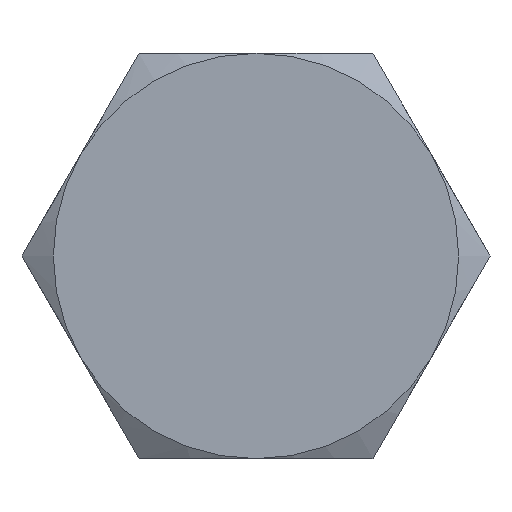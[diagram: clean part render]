
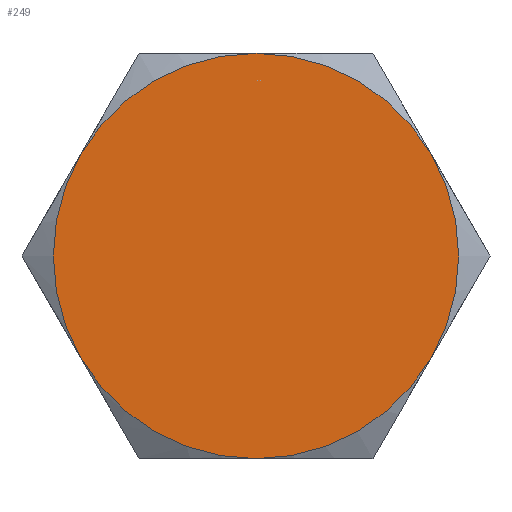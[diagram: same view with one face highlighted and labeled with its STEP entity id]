
A CAD part, left-side view. The second image highlights one B-rep face of the part: STEP entity #249.
In plain terms, the highlighted planar face has unit normal (-1, 0, 0).
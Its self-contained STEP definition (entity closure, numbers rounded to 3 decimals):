
#5 = CIRCLE ( 'NONE', #329, 6.5 ) ;
#7 = CARTESIAN_POINT ( 'NONE',  ( 0., 5.629, 3.25 ) ) ;
#14 = CARTESIAN_POINT ( 'NONE',  ( 0., 0., 6.5 ) ) ;
#76 = DIRECTION ( 'NONE',  ( -1., 0., 0. ) ) ;
#84 = CIRCLE ( 'NONE', #289, 6.5 ) ;
#87 = DIRECTION ( 'NONE',  ( 0., 0., -1. ) ) ;
#99 = EDGE_LOOP ( 'NONE', ( #219, #202, #200, #430, #188, #141 ) ) ;
#118 = EDGE_CURVE ( 'NONE', #269, #456, #120, .T. ) ;
#120 = CIRCLE ( 'NONE', #241, 6.5 ) ;
#121 = EDGE_CURVE ( 'NONE', #456, #204, #84, .T. ) ;
#124 = CARTESIAN_POINT ( 'NONE',  ( 0., 0., 0. ) ) ;
#130 = DIRECTION ( 'NONE',  ( 1., 0., 0. ) ) ;
#138 = AXIS2_PLACEMENT_3D ( 'NONE', #548, #173, #520 ) ;
#139 = EDGE_CURVE ( 'NONE', #204, #164, #446, .T. ) ;
#141 = ORIENTED_EDGE ( 'NONE', *, *, #139, .F. ) ;
#150 = AXIS2_PLACEMENT_3D ( 'NONE', #168, #518, #87 ) ;
#164 = VERTEX_POINT ( 'NONE', #7 ) ;
#165 = DIRECTION ( 'NONE',  ( 1., 0., 0. ) ) ;
#168 = CARTESIAN_POINT ( 'NONE',  ( 0., 0., 0. ) ) ;
#173 = DIRECTION ( 'NONE',  ( 1., 0., 0. ) ) ;
#176 = DIRECTION ( 'NONE',  ( 1., 0., 0. ) ) ;
#178 = EDGE_CURVE ( 'NONE', #454, #164, #5, .T. ) ;
#188 = ORIENTED_EDGE ( 'NONE', *, *, #178, .T. ) ;
#189 = AXIS2_PLACEMENT_3D ( 'NONE', #257, #176, #263 ) ;
#193 = PLANE ( 'NONE',  #521 ) ;
#200 = ORIENTED_EDGE ( 'NONE', *, *, #451, .F. ) ;
#202 = ORIENTED_EDGE ( 'NONE', *, *, #118, .F. ) ;
#204 = VERTEX_POINT ( 'NONE', #274 ) ;
#219 = ORIENTED_EDGE ( 'NONE', *, *, #121, .F. ) ;
#241 = AXIS2_PLACEMENT_3D ( 'NONE', #345, #165, #258 ) ;
#249 = ADVANCED_FACE ( 'NONE', ( #367 ), #193, .F. ) ;
#251 = DIRECTION ( 'NONE',  ( 0., 0., 1. ) ) ;
#257 = CARTESIAN_POINT ( 'NONE',  ( 0., 0., 0. ) ) ;
#258 = DIRECTION ( 'NONE',  ( 0., 0., -1. ) ) ;
#263 = DIRECTION ( 'NONE',  ( 0., 0., -1. ) ) ;
#268 = CARTESIAN_POINT ( 'NONE',  ( 0., -5.629, -3.25 ) ) ;
#269 = VERTEX_POINT ( 'NONE', #268 ) ;
#274 = CARTESIAN_POINT ( 'NONE',  ( 0., 5.629, -3.25 ) ) ;
#289 = AXIS2_PLACEMENT_3D ( 'NONE', #124, #130, #514 ) ;
#292 = VERTEX_POINT ( 'NONE', #449 ) ;
#329 = AXIS2_PLACEMENT_3D ( 'NONE', #473, #76, #251 ) ;
#345 = CARTESIAN_POINT ( 'NONE',  ( 0., 0., 0. ) ) ;
#366 = CIRCLE ( 'NONE', #189, 6.5 ) ;
#367 = FACE_OUTER_BOUND ( 'NONE', #99, .T. ) ;
#391 = CIRCLE ( 'NONE', #138, 6.5 ) ;
#430 = ORIENTED_EDGE ( 'NONE', *, *, #442, .F. ) ;
#442 = EDGE_CURVE ( 'NONE', #454, #292, #391, .T. ) ;
#443 = DIRECTION ( 'NONE',  ( 0., 0., -1. ) ) ;
#446 = CIRCLE ( 'NONE', #150, 6.5 ) ;
#449 = CARTESIAN_POINT ( 'NONE',  ( 0., -5.629, 3.25 ) ) ;
#451 = EDGE_CURVE ( 'NONE', #292, #269, #366, .T. ) ;
#454 = VERTEX_POINT ( 'NONE', #14 ) ;
#456 = VERTEX_POINT ( 'NONE', #489 ) ;
#473 = CARTESIAN_POINT ( 'NONE',  ( 0., 0., 0. ) ) ;
#488 = DIRECTION ( 'NONE',  ( 1., 0., 0. ) ) ;
#489 = CARTESIAN_POINT ( 'NONE',  ( 0., 0., -6.5 ) ) ;
#514 = DIRECTION ( 'NONE',  ( 0., 0., -1. ) ) ;
#518 = DIRECTION ( 'NONE',  ( 1., 0., 0. ) ) ;
#520 = DIRECTION ( 'NONE',  ( 0., 0., -1. ) ) ;
#521 = AXIS2_PLACEMENT_3D ( 'NONE', #535, #488, #443 ) ;
#535 = CARTESIAN_POINT ( 'NONE',  ( 0., 7.506, 0. ) ) ;
#548 = CARTESIAN_POINT ( 'NONE',  ( 0., 0., 0. ) ) ;
